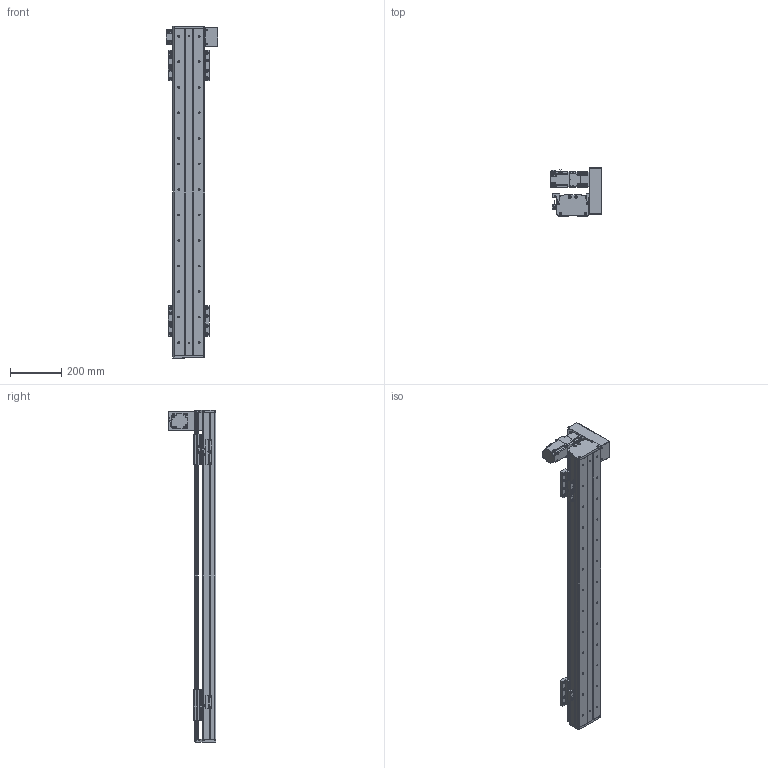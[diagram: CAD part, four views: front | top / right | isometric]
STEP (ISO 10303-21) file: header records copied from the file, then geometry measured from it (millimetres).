
FILE_DESCRIPTION(/* description */ (''),/* implementation_level */ '2;1');
FILE_NAME(/* name */ 'C:\Users\PC\Desktop\3D도면\STEP\DSB125-UR2G-W1000-L.stp',/* time_stamp */ '2018-06-19T16:55:46+09:00',/* author */ ('PC'),/* organization */ (''),/* preprocessor_version */ 'ST-DEVELOPER v16.5',/* originating_system */ 'Autodesk Inventor 2017',/* authorisation */ '');
FILE_SCHEMA (('AUTOMOTIVE_DESIGN { 1 0 10303 214 3 1 1 }'));
Length unit declared in the file: millimetre
Products named in the file (12): DSB125-UL2G-W1000-R_MIR; DSB125-BASE_MIR; DSB125-UP COVER_MIR; DSB125-FRONT COVER_MIR; DSB125-REAR COVER_MIR; hg-kr23__MIR; ab0601-p0401200402_MIR; 13-BELT COVER_MIR; DSR125-SENSOR DOG_MIR; SENSOR BRACKET(EE-SX674A)_MIR; pm-y65_step_MIR; DSB125-TABLE(MSB15S)_MIR
Assembly tree (16 placements, depth 2):
  DSB125-UL2G-W1000-R_MIR
    DSB125-BASE_MIR
    DSB125-UP COVER_MIR
    DSB125-FRONT COVER_MIR
    DSB125-REAR COVER_MIR
    hg-kr23__MIR
    ab0601-p0401200402_MIR
    13-BELT COVER_MIR
    DSR125-SENSOR DOG_MIR
    SENSOR BRACKET(EE-SX674A)_MIR  x3
    pm-y65_step_MIR  x3
    DSB125-TABLE(MSB15S)_MIR  x2
Bounding box: 202.1 x 187 x 1300 mm (x, y, z)
Volume: 4819336 mm3; surface area: 1388243.7 mm2
Topology: 17 solids, 17 shells, 1663 faces, 4510 edges, 2972 vertices
Faces by surface type: plane 903, cylinder 632, cone 116, sphere 8, torus 4
Full cylindrical faces by diameter (mm): 2.459 x20, 3.242 x16, 3.5 x6, 4 x1, 4.134 x16, 4.2 x4, 4.3 x1, 4.5 x50, 4.917 x20, 5 x22, 5.3 x1, 5.5 x4, 5.6 x8, 5.8 x4, 5.9 x8, 6 x4, 6.6 x22, 6.647 x26, 7.5 x32, 8.5 x8, 8.7 x1, 11 x22, 14 x1, 16 x2, 17 x1, 20 x1, 47 x1, 50 x3
Entity records: 36053 total; most frequent: CARTESIAN_POINT 6495, DIRECTION 6122, ORIENTED_EDGE 5482, EDGE_CURVE 2741, AXIS2_PLACEMENT_3D 2249, VERTEX_POINT 1950, EDGE_LOOP 1677, LINE 1624
